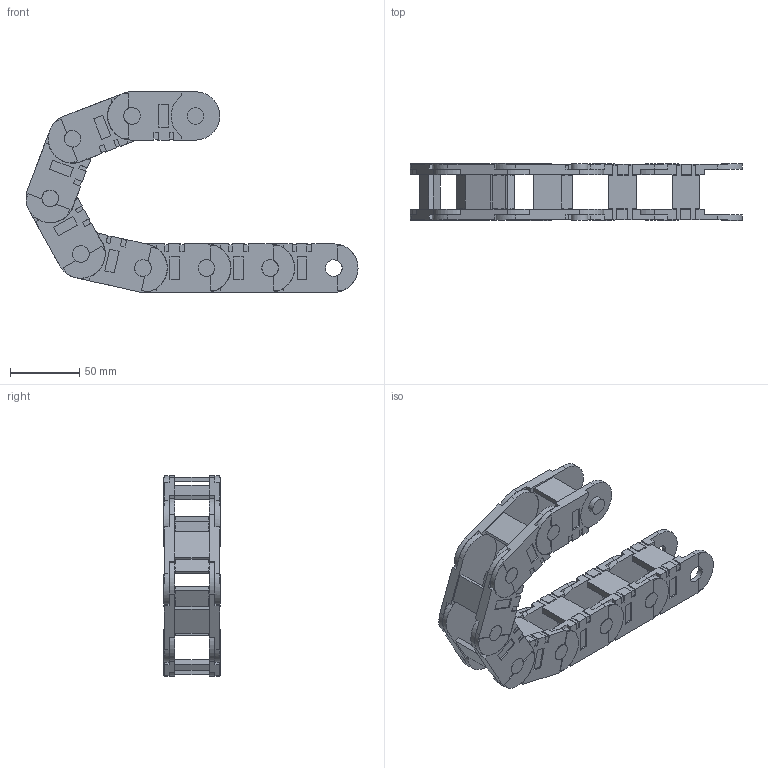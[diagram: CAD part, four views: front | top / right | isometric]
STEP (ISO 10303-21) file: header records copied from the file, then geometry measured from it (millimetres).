
FILE_DESCRIPTION(('STEP AP214'),'1');
FILE_NAME('cctmp_CC590E87-5A3A-4222-96DF-5E079DB4DC43_2026_01_17_13_07_40_0423_235144..stp','2026-01-17T12:07:40',('igus GmbH'),('CADClick - www.CADClick.com'),'Spatial InterOp 3D',' ','unknown authorization');
FILE_SCHEMA(('AUTOMOTIVE_DESIGN'));
Length unit declared in the file: millimetre
Products named in the file (8): 2026_01_17_13_07_40_0313; 2026_01_17_13_07_40_0329; 2026_01_17_13_07_40_0345; 2026_01_17_13_07_40_0360; 2026_01_17_13_07_40_0376; 2026_01_17_13_07_40_0391; 2026_01_17_13_07_40_0407; 2026_01_17_13_07_40_0423
Bounding box: 240.09 x 41 x 145 mm (x, y, z)
Volume: 226204.1 mm3; surface area: 130979 mm2
Topology: 24 solids, 24 shells, 872 faces, 2400 edges, 1600 vertices
Faces by surface type: plane 680, cylinder 192
Entity records: 34893 total; most frequent: CARTESIAN_POINT 4880, ORIENTED_EDGE 4800, DIRECTION 4608, EDGE_CURVE 2400, LINE 1952, VECTOR 1952, VERTEX_POINT 1600, AXIS2_PLACEMENT_3D 1328
